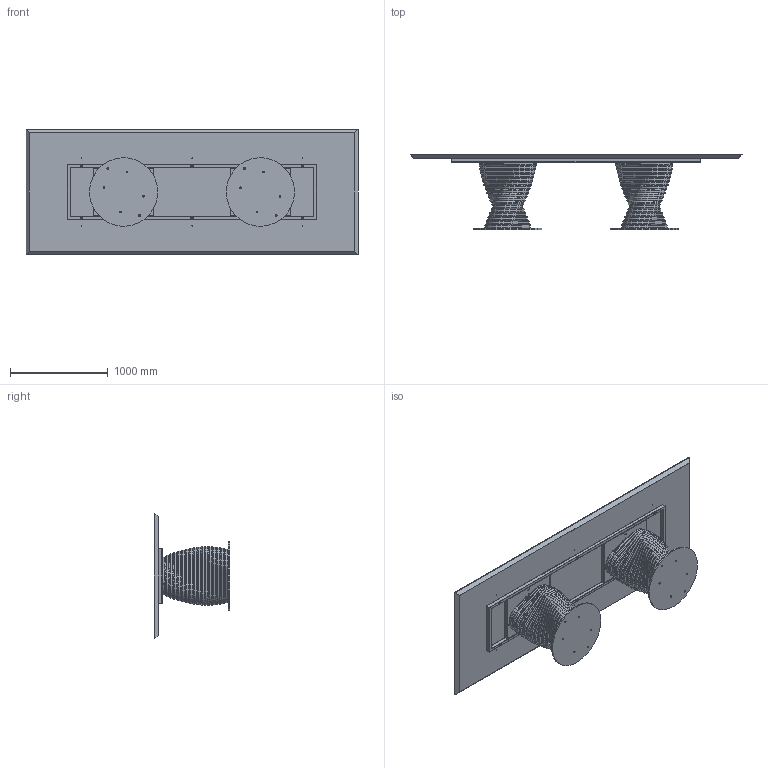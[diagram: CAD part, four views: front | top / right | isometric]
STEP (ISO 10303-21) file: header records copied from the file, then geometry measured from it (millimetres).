
FILE_DESCRIPTION (( 'STEP AP203' ), '1' );
FILE_NAME ('RO26W.STEP', '2024-08-07T13:19:30', ( '' ), ( '' ), 'SwSTEP 2.0', 'SolidWorks 2022', '' );
FILE_SCHEMA (( 'CONFIG_CONTROL_DESIGN' ));
Length unit declared in the file: millimetre
Products named in the file (15): ROB200000-00-PIASTRA BASE_Ø70cm; rondella M8_8X24; TTAV03_02-06-VASSOIO IRRIGIDIMENTO TELAIO UNIVERSALE RETTANGOLARE; ROBX00000MED-00-Anello rotolo MEDIO_Default<A macchina>; COLLO TELAIO UNIVERSALE TTAV03 CON FERRAMENTA_MTG TOP LEGNO-MARMO-KING; TTAV03-06-TELAIO UNIVERSALE X TAVOLI 300-340cm; M8xXXmm_M8x20mm; M8xXXmm_hex_M8X20mm; RO26W; ROBX00000INF-00-Anello rotolo INFERIORE_Default<A macchina>; ROBX00000SUP-00-Anello rotolo SUPERIORE_Default<A macchina>; ROBX00000-00-ROTOLO BASE 17 ANELLI; TTAV03_01-06-RING TUBO TELAIO UNIVERSALE X TAVOLI 300-340cm; W2XCMXX-00-Piani Rettangolari in legno_3400 x 1280; M8xXXmm_M8x55mm
Assembly tree (67 placements, depth 4):
  RO26W
    ROB200000-00-PIASTRA BASE_Ø70cm  x2
    COLLO TELAIO UNIVERSALE TTAV03 CON FERRAMENTA_MTG TOP LEGNO-MARMO-KING
      TTAV03-06-TELAIO UNIVERSALE X TAVOLI 300-340cm
        TTAV03_01-06-RING TUBO TELAIO UNIVERSALE X TAVOLI 300-340cm
        TTAV03_02-06-VASSOIO IRRIGIDIMENTO TELAIO UNIVERSALE RETTANGOLARE  x2
      rondella M8_8X24  x6
      M8xXXmm_M8x55mm  x6
    ROBX00000-00-ROTOLO BASE 17 ANELLI  x2
      ROBX00000INF-00-Anello rotolo INFERIORE_Default<A macchina>
      ROBX00000MED-00-Anello rotolo MEDIO_Default<A macchina>
      ROBX00000SUP-00-Anello rotolo SUPERIORE_Default<A macchina>
    M8xXXmm_hex_M8X20mm  x12
    rondella M8_8X24  x8
    M8xXXmm_M8x20mm  x8
    W2XCMXX-00-Piani Rettangolari in legno_3400 x 1280
Bounding box: 3400 x 770 x 1280 mm (x, y, z)
Volume: 183333902.1 mm3; surface area: 23421888.7 mm2
Topology: 182 solids, 182 shells, 3072 faces, 7232 edges, 4460 vertices
Faces by surface type: plane 1238, cylinder 1040, torus 464, cone 322, sphere 8
Entity records: 23351 total; most frequent: CARTESIAN_POINT 5128, DIRECTION 3336, ORIENTED_EDGE 3028, EDGE_CURVE 1514, AXIS2_PLACEMENT_3D 1261, VERTEX_POINT 943, LINE 814, VECTOR 814
